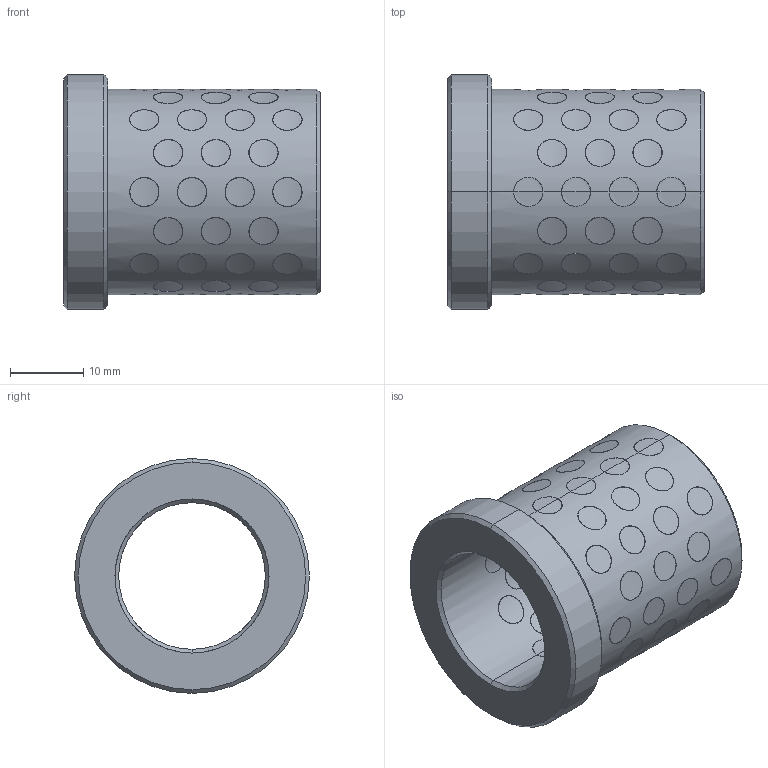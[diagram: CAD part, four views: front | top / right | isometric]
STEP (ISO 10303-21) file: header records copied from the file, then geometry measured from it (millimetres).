
FILE_DESCRIPTION(('CATIA V5 STEP Exchange'),'2;1');
FILE_NAME('C:\Users\Utente\Desktop\3D files G401\G4012035.stp','2020-04-22T08:37:00+00:00',('none'),('none'),'CATIA Version 5 Release 20 GA (IN-10)','CATIA V5 STEP AP203','none');
FILE_SCHEMA(('CONFIG_CONTROL_DESIGN'));
Length unit declared in the file: millimetre
Products named in the file (1): G4012035
Bounding box: 35 x 32 x 32 mm (x, y, z)
Surface area: 11811.1 mm2 (no closed solid volume)
Topology: 0 solids, 371 shells, 371 faces, 1612 edges, 1612 vertices
Faces by surface type: cylinder 358, revolution 10, plane 3
Entity records: 33246 total; most frequent: CARTESIAN_POINT 22052, ORIENTED_EDGE 1612, EDGE_CURVE 1612, VERTEX_POINT 1612, DIRECTION 1313, B_SPLINE_CURVE_WITH_KNOTS 1041, VECTOR 544, LINE 544
